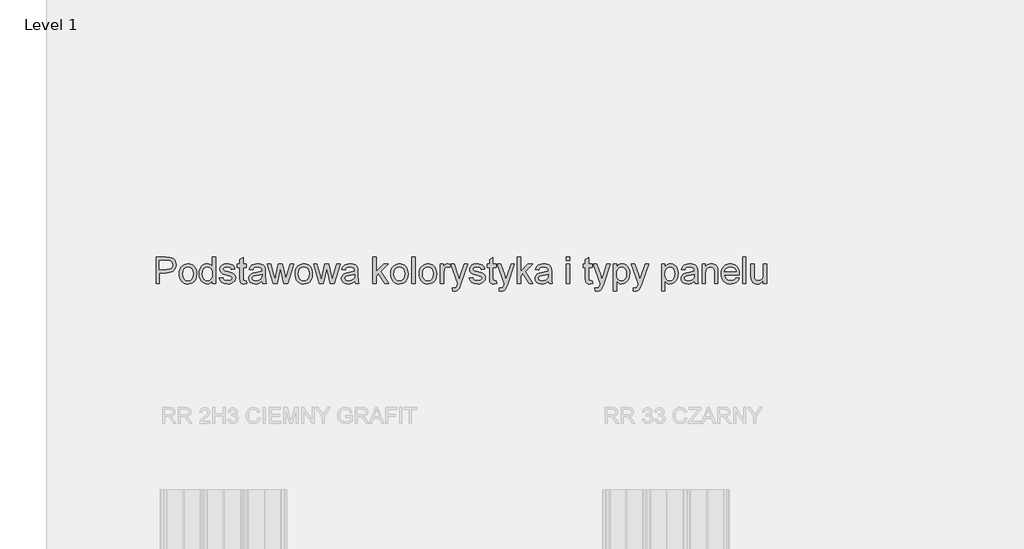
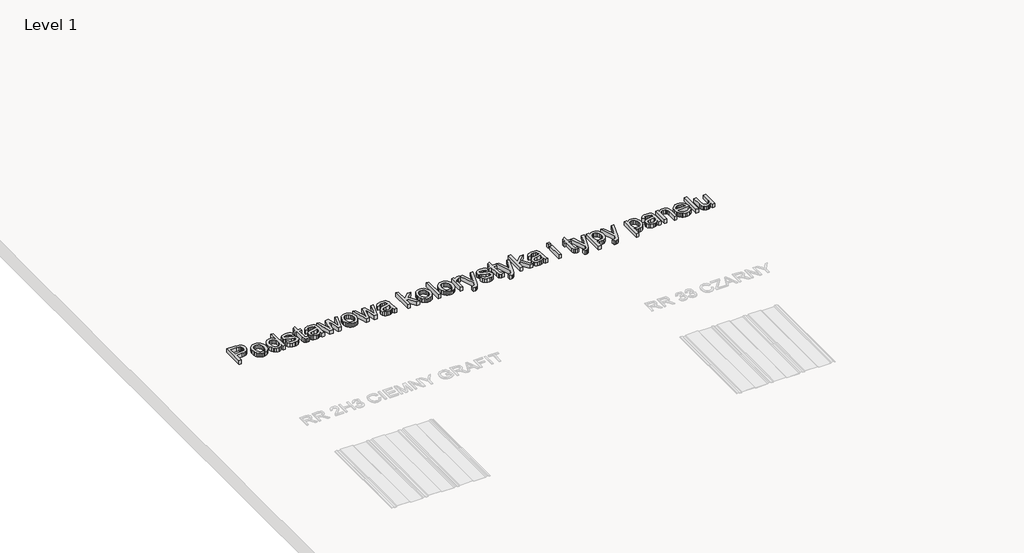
# One storey, part 8 of 9: 1 proxy.
"""IFC4 building model written with IfcOpenShell, lengths in millimetres."""

from ifc_helpers import new_model, si_unit, frame, origin, place, context, project, spatial, polyline, outline, extrude, element, save

model = new_model("IFC4")

# Units and contexts
model_context = context("Model", 3, world=origin())
ifc_project = project(units=[si_unit("LENGTHUNIT", "METRE", prefix="MILLI")], contexts=[model_context])

# Site, building, storey
site = spatial("IfcSite", under=ifc_project)
building = spatial("IfcBuilding", under=site)
storey = spatial("IfcBuildingStorey", under=building, Name="Level 1", Elevation=0.0)

# Proxy
placement = place(None, origin())
element("IfcBuildingElementProxy", 1, Name="250", ObjectType="250", at=placement, inside=storey, context=model_context, shape_type="SweptSolid", body=[
    extrude(outline(polyline([(-8797.1954693, 2793.1104745), (-8797.1954693, 3044.2512499), (-8704.1213245, 3044.2512499), (-8666.597361, 3041.8600169), (-8649.8663944, 3037.3917835), (-8636.0938123, 3030.1184499), (-8625.0037029, 3019.7104551), (-8616.320155, 3005.8382382), (-8610.7099546, 2989.4751536), (-8608.8398878, 2971.5945558), (-8613.890601, 2941.9953836), (-8629.0427407, 2917.3319616), (-8641.1770984, 2907.6214097), (-8657.3773185, 2900.6853013), (-8677.6434011, 2896.5236362), (-8701.9753462, 2895.1364145), (-8765.8028724, 2895.1364145), (-8765.8028724, 2793.1104745), (-8797.1954693, 2793.1104745)]), holes=[polyline([(-8765.8028724, 2926.5290114), (-8700.1359362, 2926.5290114), (-8672.2995319, 2929.4107537), (-8653.9054322, 2938.0559806), (-8643.6507216, 2951.9281975), (-8640.2324847, 2970.4909099), (-8642.2481715, 2984.593053), (-8648.2952318, 2996.4879042), (-8657.6225732, 3005.4396994), (-8669.4791033, 3010.7126747), (-8700.8717002, 3012.858653), (-8765.8028724, 3012.858653), (-8765.8028724, 2926.5290114)])]), frame((0.0, 0.0, 600.0), z_axis=(0.0, 0.0, 1.0), x_axis=(1.0, 0.0, 0.0)), (0.0, 0.0, 1.0), 50.0),
    extrude(outline(polyline([(-8577.4472909, 2885.326228), (-8575.7496687, 2909.2117329), (-8570.6568024, 2929.7939641), (-8562.1686917, 2947.0729216), (-8550.2853369, 2961.0486053), (-8525.116077, 2976.3616934), (-8494.9804103, 2981.466056), (-8477.6612157, 2979.9121378), (-8462.0013222, 2975.2503832), (-8448.0007299, 2967.4807921), (-8435.6594385, 2956.6033645), (-8425.5867529, 2942.9859826), (-8418.3919774, 2926.9965281), (-8414.0751121, 2908.6350013), (-8412.636157, 2887.9014019), (-8415.1806741, 2856.1869083), (-8422.8142255, 2832.0446523), (-8435.3145492, 2813.9647851), (-8452.459383, 2800.4374576), (-8472.8231843, 2791.9991643), (-8494.9804103, 2789.1863999), (-8512.5525237, 2790.73457), (-8528.3580371, 2795.3790802), (-8542.3969506, 2803.1199305), (-8554.669264, 2813.9571209), (-8564.6346507, 2827.7067105), (-8571.7527841, 2844.1847582), (-8576.0236642, 2863.391264), (-8577.4472909, 2885.326228)]), holes=[polyline([(-8546.0546939, 2885.3875416), (-8542.4218592, 2856.9763217), (-8531.5233551, 2836.7351478), (-8515.1219495, 2824.6180346), (-8494.9804103, 2820.5789968), (-8474.9308415, 2824.6410272), (-8458.5600927, 2836.8271183), (-8447.6615886, 2857.3365395), (-8444.0287539, 2886.3685603), (-8447.6845813, 2913.9520457), (-8458.6520632, 2933.9173082), (-8475.0458047, 2946.0344214), (-8494.9804103, 2950.0734591), (-8515.1219495, 2946.0497498), (-8531.5233551, 2933.9786218), (-8542.4218592, 2913.7834331), (-8546.0546939, 2885.3875416)])]), frame((0.0, 0.0, 600.0), z_axis=(0.0, 0.0, 1.0), x_axis=(1.0, 0.0, 0.0)), (0.0, 0.0, 1.0), 50.0),
    extrude(outline(polyline([(-8263.5213216, 2793.1104745), (-8263.5213216, 2822.7249751), (-8272.9138088, 2808.0518485), (-8284.2913259, 2797.5710437), (-8297.653873, 2791.2825609), (-8313.00145, 2789.1863999), (-8333.2962734, 2792.2214264), (-8351.8743141, 2801.3265057), (-8367.6012694, 2815.8655088), (-8379.3428365, 2835.2023061), (-8386.6544911, 2858.5551486), (-8389.0917093, 2885.142287), (-8386.8460963, 2911.3998644), (-8380.1092573, 2935.1129247), (-8368.8888564, 2954.9325671), (-8353.192558, 2969.5098912), (-8334.2083142, 2978.4770148), (-8313.1240773, 2981.466056), (-8297.765004, 2979.3277419), (-8284.184027, 2972.9127997), (-8272.6723863, 2963.0796205), (-8263.5213216, 2950.6865958), (-8263.5213216, 3044.2512499), (-8232.1287247, 3044.2512499), (-8232.1287247, 2793.1104745), (-8263.5213216, 2793.1104745)]), holes=[polyline([(-8357.6991124, 2885.2649143), (-8354.1582482, 2856.8690228), (-8343.5356556, 2836.6738341), (-8328.0999402, 2824.6027061), (-8310.1197077, 2820.5789968), (-8292.1471394, 2824.4187651), (-8277.1022986, 2835.9380701), (-8266.9165659, 2855.3515096), (-8263.5213216, 2882.8736813), (-8266.9778795, 2912.9633629), (-8277.3475533, 2933.8253377), (-8292.7756045, 2946.0114288), (-8311.4072947, 2950.0734591), (-8329.5714682, 2946.1723771), (-8344.4553606, 2934.4691312), (-8354.3881744, 2914.365913), (-8357.6991124, 2885.2649143)])]), frame((0.0, 0.0, 600.0), z_axis=(0.0, 0.0, 1.0), x_axis=(1.0, 0.0, 0.0)), (0.0, 0.0, 1.0), 50.0),
    extrude(outline(polyline([(-8196.8120532, 2848.0475191), (-8165.4194563, 2851.9715937), (-8160.4683777, 2838.5439009), (-8150.8881174, 2828.6724007), (-8136.6173617, 2822.6023478), (-8117.5947969, 2820.5789968), (-8098.8021583, 2822.4337352), (-8085.5890633, 2827.9979504), (-8077.7715709, 2836.0606975), (-8075.1657401, 2845.4110315), (-8077.7868993, 2853.4124649), (-8085.650377, 2859.5131746), (-8117.9626789, 2868.4649699), (-8165.2355153, 2883.8240432), (-8177.1993443, 2891.5419009), (-8185.8675638, 2901.7582904), (-8191.1328749, 2913.8217542), (-8192.8879786, 2927.0808344), (-8187.2471213, 2950.471998), (-8171.8573912, 2968.3449316), (-8151.8997929, 2977.6339519), (-8124.8911231, 2981.466056), (-8104.458344, 2979.9255502), (-8086.6927093, 2975.3040326), (-8072.4066251, 2968.0536916), (-8062.4124976, 2958.6267155), (-8055.7906217, 2946.3256613), (-8051.6212924, 2930.453086), (-8083.0138893, 2926.5290114), (-8086.976285, 2936.4081758), (-8094.81677, 2943.850122), (-8106.6119865, 2948.5176249), (-8122.4385765, 2950.0734591), (-8140.4647942, 2948.5866027), (-8152.4822728, 2944.1260335), (-8159.2421044, 2937.6880986), (-8161.4953816, 2930.2691451), (-8157.755248, 2921.1334088), (-8146.0443378, 2914.2049646), (-8119.0050112, 2907.521775), (-8072.9277913, 2892.7451815), (-8060.7570286, 2885.6787816), (-8051.5293219, 2876.0065508), (-8045.7121879, 2863.6978323), (-8043.7731432, 2848.7219695), (-8046.049413, 2833.2402688), (-8052.8782226, 2818.6782732), (-8063.9989887, 2806.1779496), (-8079.1511284, 2796.881265), (-8097.4532576, 2791.1101162), (-8118.0239925, 2789.1863999), (-8149.6771725, 2792.8958767), (-8172.7770962, 2804.024307), (-8188.1974831, 2822.4490636), (-8196.8120532, 2848.0475191)])), frame((0.0, 0.0, 600.0), z_axis=(0.0, 0.0, 1.0), x_axis=(1.0, 0.0, 0.0)), (0.0, 0.0, 1.0), 50.0),
    extrude(outline(polyline([(-7941.7472032, 2819.2914098), (-7937.8231286, 2792.1907695), (-7961.3062626, 2789.1863999), (-7976.374096, 2790.4893153), (-7987.6098253, 2794.3980615), (-8000.7309497, 2808.071009), (-8004.532397, 2843.6942489), (-8004.532397, 2946.1493845), (-8028.0768447, 2946.1493845), (-8028.0768447, 2977.5419814), (-8004.532397, 2977.5419814), (-8004.532397, 3022.3622712), (-7973.1398001, 3040.8176846), (-7973.1398001, 2977.5419814), (-7941.7472032, 2977.5419814), (-7941.7472032, 2946.1493845), (-7973.1398001, 2946.1493845), (-7973.1398001, 2844.6139538), (-7971.4843311, 2828.4271461), (-7966.1193854, 2822.6943183), (-7955.4201507, 2820.5789968), (-7941.7472032, 2819.2914098)])), frame((0.0, 0.0, 600.0), z_axis=(0.0, 0.0, 1.0), x_axis=(1.0, 0.0, 0.0)), (0.0, 0.0, 1.0), 50.0),
    extrude(outline(polyline([(-7792.6323678, 2816.6549222), (-7807.6312233, 2803.7943808), (-7823.0746029, 2795.3790802), (-7839.3150602, 2790.73457), (-7856.7051486, 2789.1863999), (-7882.9397334, 2792.9112051), (-7902.2918592, 2804.0856207), (-7914.2250314, 2821.0541777), (-7918.2027555, 2842.1614072), (-7916.7005707, 2855.1752328), (-7912.1940162, 2866.9934419), (-7896.4057473, 2885.0196596), (-7874.4247981, 2895.3203555), (-7847.2628441, 2900.0415078), (-7792.8163088, 2910.832713), (-7792.6323678, 2917.8224709), (-7794.7936745, 2931.8326435), (-7801.2775947, 2940.9990366), (-7815.7782767, 2947.8048535), (-7835.9811296, 2950.0734591), (-7854.6817977, 2948.5636101), (-7867.7416085, 2944.034063), (-7876.6474185, 2935.6570834), (-7882.886084, 2922.6049368), (-7914.2786809, 2926.5290114), (-7908.8294288, 2943.6968379), (-7900.6977039, 2957.1858444), (-7889.1247495, 2967.5018686), (-7873.3518089, 2975.1507485), (-7854.0609968, 2979.8872292), (-7831.9344276, 2981.466056), (-7810.712235, 2980.0711701), (-7793.889298, 2975.8865125), (-7781.2050333, 2969.5941975), (-7772.3988581, 2961.8763398), (-7762.7726125, 2940.5698409), (-7761.2397709, 2913.1013186), (-7761.2397709, 2874.0445135), (-7759.6456156, 2819.5060077), (-7753.3916217, 2793.1104745), (-7784.7842186, 2793.1104745), (-7792.6323678, 2816.6549222)]), holes=[polyline([(-7792.6323678, 2879.4401161), (-7843.2774558, 2869.8138705), (-7870.2861256, 2864.7248362), (-7882.518202, 2856.4474914), (-7886.8101586, 2844.3686992), (-7884.4725751, 2835.0336935), (-7877.4598245, 2827.3848137), (-7865.9251911, 2822.280451), (-7850.0219591, 2820.5789968), (-7833.1607009, 2822.4567278), (-7818.2614801, 2828.0899209), (-7806.182688, 2836.3902584), (-7797.7827157, 2846.2694228), (-7794.0579105, 2856.4474914), (-7792.8163088, 2870.5496345), (-7792.6323678, 2879.4401161)])]), frame((0.0, 0.0, 600.0), z_axis=(0.0, 0.0, 1.0), x_axis=(1.0, 0.0, 0.0)), (0.0, 0.0, 1.0), 50.0),
    extrude(outline(polyline([(-7687.2341762, 2793.1104745), (-7743.5814351, 2977.5419814), (-7711.0238785, 2977.5419814), (-7679.1407723, 2869.9364978), (-7669.6371541, 2831.4928293), (-7661.8503185, 2868.5262835), (-7636.5277745, 2977.5419814), (-7599.2490657, 2977.5419814), (-7573.9265217, 2868.8328519), (-7566.9980774, 2835.2942766), (-7557.0652636, 2870.6722618), (-7525.1821573, 2977.5419814), (-7492.4406597, 2977.5419814), (-7548.9718597, 2793.1104745), (-7586.8637052, 2793.1104745), (-7611.0212895, 2901.2677811), (-7618.0110474, 2934.9902973), (-7649.097076, 2793.1104745), (-7687.2341762, 2793.1104745)])), frame((0.0, 0.0, 600.0), z_axis=(0.0, 0.0, 1.0), x_axis=(1.0, 0.0, 0.0)), (0.0, 0.0, 1.0), 50.0),
    extrude(outline(polyline([(-7478.7063986, 2885.326228), (-7477.0087765, 2909.2117329), (-7471.9159101, 2929.7939641), (-7463.4277995, 2947.0729216), (-7451.5444446, 2961.0486053), (-7426.3751848, 2976.3616934), (-7396.239518, 2981.466056), (-7378.9203235, 2979.9121378), (-7363.26043, 2975.2503832), (-7349.2598376, 2967.4807921), (-7336.9185463, 2956.6033645), (-7326.8458606, 2942.9859826), (-7319.6510851, 2926.9965281), (-7315.3342198, 2908.6350013), (-7313.8952648, 2887.9014019), (-7316.4397819, 2856.1869083), (-7324.0733333, 2832.0446523), (-7336.5736569, 2813.9647851), (-7353.7184907, 2800.4374576), (-7374.082292, 2791.9991643), (-7396.239518, 2789.1863999), (-7413.8116314, 2790.73457), (-7429.6171449, 2795.3790802), (-7443.6560583, 2803.1199305), (-7455.9283717, 2813.9571209), (-7465.8937585, 2827.7067105), (-7473.0118919, 2844.1847582), (-7477.2827719, 2863.391264), (-7478.7063986, 2885.326228)]), holes=[polyline([(-7447.3138017, 2885.3875416), (-7443.680967, 2856.9763217), (-7432.7824629, 2836.7351478), (-7416.3810572, 2824.6180346), (-7396.239518, 2820.5789968), (-7376.1899493, 2824.6410272), (-7359.8192005, 2836.8271183), (-7348.9206964, 2857.3365395), (-7345.2878617, 2886.3685603), (-7348.943689, 2913.9520457), (-7359.911171, 2933.9173082), (-7376.3049124, 2946.0344214), (-7396.239518, 2950.0734591), (-7416.3810572, 2946.0497498), (-7432.7824629, 2933.9786218), (-7443.680967, 2913.7834331), (-7447.3138017, 2885.3875416)])]), frame((0.0, 0.0, 600.0), z_axis=(0.0, 0.0, 1.0), x_axis=(1.0, 0.0, 0.0)), (0.0, 0.0, 1.0), 50.0),
    extrude(outline(polyline([(-7247.7378193, 2793.1104745), (-7304.0850782, 2977.5419814), (-7271.5275216, 2977.5419814), (-7239.6444154, 2869.9364978), (-7230.1407972, 2831.4928293), (-7222.3539616, 2868.5262835), (-7197.0314176, 2977.5419814), (-7159.7527088, 2977.5419814), (-7134.4301648, 2868.8328519), (-7127.5017205, 2835.2942766), (-7117.5689067, 2870.6722618), (-7085.6858004, 2977.5419814), (-7052.9443028, 2977.5419814), (-7109.4755028, 2793.1104745), (-7147.3673483, 2793.1104745), (-7171.5249326, 2901.2677811), (-7178.5146905, 2934.9902973), (-7209.6007191, 2793.1104745), (-7247.7378193, 2793.1104745)])), frame((0.0, 0.0, 600.0), z_axis=(0.0, 0.0, 1.0), x_axis=(1.0, 0.0, 0.0)), (0.0, 0.0, 1.0), 50.0),
    extrude(outline(polyline([(-6913.639654, 2816.6549222), (-6928.6385095, 2803.7943808), (-6944.0818891, 2795.3790802), (-6960.3223463, 2790.73457), (-6977.7124348, 2789.1863999), (-7003.9470196, 2792.9112051), (-7023.2991454, 2804.0856207), (-7035.2323176, 2821.0541777), (-7039.2100417, 2842.1614072), (-7037.7078569, 2855.1752328), (-7033.2013024, 2866.9934419), (-7017.4130335, 2885.0196596), (-6995.4320843, 2895.3203555), (-6968.2701303, 2900.0415078), (-6913.823595, 2910.832713), (-6913.639654, 2917.8224709), (-6915.8009607, 2931.8326435), (-6922.2848809, 2940.9990366), (-6936.7855629, 2947.8048535), (-6956.9884158, 2950.0734591), (-6975.6890839, 2948.5636101), (-6988.7488947, 2944.034063), (-6997.6547046, 2935.6570834), (-7003.8933702, 2922.6049368), (-7035.2859671, 2926.5290114), (-7029.836715, 2943.6968379), (-7021.7049901, 2957.1858444), (-7010.1320357, 2967.5018686), (-6994.3590951, 2975.1507485), (-6975.068283, 2979.8872292), (-6952.9417138, 2981.466056), (-6931.7195212, 2980.0711701), (-6914.8965842, 2975.8865125), (-6902.2123195, 2969.5941975), (-6893.4061443, 2961.8763398), (-6883.7798987, 2940.5698409), (-6882.2470571, 2913.1013186), (-6882.2470571, 2874.0445135), (-6880.6529018, 2819.5060077), (-6874.3989078, 2793.1104745), (-6905.7915048, 2793.1104745), (-6913.639654, 2816.6549222)]), holes=[polyline([(-6913.639654, 2879.4401161), (-6964.284742, 2869.8138705), (-6991.2934118, 2864.7248362), (-7003.5254882, 2856.4474914), (-7007.8174448, 2844.3686992), (-7005.4798613, 2835.0336935), (-6998.4671107, 2827.3848137), (-6986.9324773, 2822.280451), (-6971.0292452, 2820.5789968), (-6954.1679871, 2822.4567278), (-6939.2687663, 2828.0899209), (-6927.1899742, 2836.3902584), (-6918.7900019, 2846.2694228), (-6915.0651967, 2856.4474914), (-6913.823595, 2870.5496345), (-6913.639654, 2879.4401161)])]), frame((0.0, 0.0, 600.0), z_axis=(0.0, 0.0, 1.0), x_axis=(1.0, 0.0, 0.0)), (0.0, 0.0, 1.0), 50.0),
    extrude(outline(polyline([(-6740.9803709, 2793.1104745), (-6740.9803709, 3044.2512499), (-6709.587774, 3044.2512499), (-6709.587774, 2909.2998713), (-6639.1996856, 2977.5419814), (-6595.7896102, 2977.5419814), (-6667.0974036, 2908.44148), (-6591.8655356, 2793.1104745), (-6628.5311077, 2793.1104745), (-6689.5995189, 2886.613815), (-6709.587774, 2867.1773829), (-6709.587774, 2793.1104745), (-6740.9803709, 2793.1104745)])), frame((0.0, 0.0, 600.0), z_axis=(0.0, 0.0, 1.0), x_axis=(1.0, 0.0, 0.0)), (0.0, 0.0, 1.0), 50.0),
    extrude(outline(polyline([(-6572.2451625, 2885.326228), (-6570.5475404, 2909.2117329), (-6565.454674, 2929.7939641), (-6556.9665634, 2947.0729216), (-6545.0832085, 2961.0486053), (-6519.9139487, 2976.3616934), (-6489.7782819, 2981.466056), (-6472.4590873, 2979.9121378), (-6456.7991939, 2975.2503832), (-6442.7986015, 2967.4807921), (-6430.4573102, 2956.6033645), (-6420.3846245, 2942.9859826), (-6413.189849, 2926.9965281), (-6408.8729837, 2908.6350013), (-6407.4340286, 2887.9014019), (-6409.9785458, 2856.1869083), (-6417.6120972, 2832.0446523), (-6430.1124208, 2813.9647851), (-6447.2572546, 2800.4374576), (-6467.6210559, 2791.9991643), (-6489.7782819, 2789.1863999), (-6507.3503953, 2790.73457), (-6523.1559087, 2795.3790802), (-6537.1948222, 2803.1199305), (-6549.4671356, 2813.9571209), (-6559.4325224, 2827.7067105), (-6566.5506558, 2844.1847582), (-6570.8215358, 2863.391264), (-6572.2451625, 2885.326228)]), holes=[polyline([(-6540.8525656, 2885.3875416), (-6537.2197309, 2856.9763217), (-6526.3212267, 2836.7351478), (-6509.9198211, 2824.6180346), (-6489.7782819, 2820.5789968), (-6469.7287132, 2824.6410272), (-6453.3579644, 2836.8271183), (-6442.4594603, 2857.3365395), (-6438.8266256, 2886.3685603), (-6442.4824529, 2913.9520457), (-6453.4499349, 2933.9173082), (-6469.8436763, 2946.0344214), (-6489.7782819, 2950.0734591), (-6509.9198211, 2946.0497498), (-6526.3212267, 2933.9786218), (-6537.2197309, 2913.7834331), (-6540.8525656, 2885.3875416)])]), frame((0.0, 0.0, 600.0), z_axis=(0.0, 0.0, 1.0), x_axis=(1.0, 0.0, 0.0)), (0.0, 0.0, 1.0), 50.0),
    extrude(outline(polyline([(-6372.1173571, 2793.1104745), (-6372.1173571, 3044.2512499), (-6340.7247602, 3044.2512499), (-6340.7247602, 2793.1104745), (-6372.1173571, 2793.1104745)])), frame((0.0, 0.0, 600.0), z_axis=(0.0, 0.0, 1.0), x_axis=(1.0, 0.0, 0.0)), (0.0, 0.0, 1.0), 50.0),
    extrude(outline(polyline([(-6301.484014, 2885.326228), (-6299.7863919, 2909.2117329), (-6294.6935255, 2929.7939641), (-6286.2054149, 2947.0729216), (-6274.32206, 2961.0486053), (-6249.1528002, 2976.3616934), (-6219.0171334, 2981.466056), (-6201.6979389, 2979.9121378), (-6186.0380454, 2975.2503832), (-6172.037453, 2967.4807921), (-6159.6961617, 2956.6033645), (-6149.623476, 2942.9859826), (-6142.4287006, 2926.9965281), (-6138.1118353, 2908.6350013), (-6136.6728802, 2887.9014019), (-6139.2173973, 2856.1869083), (-6146.8509487, 2832.0446523), (-6159.3512723, 2813.9647851), (-6176.4961062, 2800.4374576), (-6196.8599074, 2791.9991643), (-6219.0171334, 2789.1863999), (-6236.5892469, 2790.73457), (-6252.3947603, 2795.3790802), (-6266.4336737, 2803.1199305), (-6278.7059872, 2813.9571209), (-6288.6713739, 2827.7067105), (-6295.7895073, 2844.1847582), (-6300.0603873, 2863.391264), (-6301.484014, 2885.326228)]), holes=[polyline([(-6270.0914171, 2885.3875416), (-6266.4585824, 2856.9763217), (-6255.5600783, 2836.7351478), (-6239.1586727, 2824.6180346), (-6219.0171334, 2820.5789968), (-6198.9675647, 2824.6410272), (-6182.5968159, 2836.8271183), (-6171.6983118, 2857.3365395), (-6168.0654771, 2886.3685603), (-6171.7213044, 2913.9520457), (-6182.6887864, 2933.9173082), (-6199.0825278, 2946.0344214), (-6219.0171334, 2950.0734591), (-6239.1586727, 2946.0497498), (-6255.5600783, 2933.9786218), (-6266.4585824, 2913.7834331), (-6270.0914171, 2885.3875416)])]), frame((0.0, 0.0, 600.0), z_axis=(0.0, 0.0, 1.0), x_axis=(1.0, 0.0, 0.0)), (0.0, 0.0, 1.0), 50.0),
    extrude(outline(polyline([(-6101.3562087, 2793.1104745), (-6101.3562087, 2977.5419814), (-6073.8876863, 2977.5419814), (-6073.8876863, 2950.2574001), (-6063.7402746, 2966.0763259), (-6054.3899406, 2975.3960031), (-6034.7695675, 2981.466056), (-6019.1345827, 2979.0441662), (-6003.2543433, 2971.7784968), (-6013.7389801, 2943.6355242), (-6035.8118998, 2950.0734591), (-6045.1852265, 2948.5252891), (-6053.5622061, 2943.8807789), (-6064.8745775, 2926.7129524), (-6069.9636117, 2890.0473802), (-6069.9636117, 2793.1104745), (-6101.3562087, 2793.1104745)])), frame((0.0, 0.0, 600.0), z_axis=(0.0, 0.0, 1.0), x_axis=(1.0, 0.0, 0.0)), (0.0, 0.0, 1.0), 50.0),
    extrude(outline(polyline([(-5983.6339702, 2722.4771314), (-5987.5580448, 2752.7047687), (-5971.6164917, 2749.9456537), (-5956.7172709, 2753.4098759), (-5947.5815347, 2763.0667782), (-5938.9976214, 2786.1820303), (-5936.5450748, 2793.7849248), (-6003.2543433, 2977.5419814), (-5970.2062774, 2977.5419814), (-5934.7669785, 2875.0868458), (-5922.4429317, 2834.129317), (-5910.1188848, 2870.3656935), (-5873.759881, 2977.5419814), (-5840.9570697, 2977.5419814), (-5905.1524779, 2788.6958906), (-5921.829795, 2747.7383618), (-5930.367723, 2734.6632225), (-5940.0399538, 2725.6041284), (-5951.2603546, 2720.3158247), (-5964.4427928, 2718.5530568), (-5983.6339702, 2722.4771314)])), frame((0.0, 0.0, 600.0), z_axis=(0.0, 0.0, 1.0), x_axis=(1.0, 0.0, 0.0)), (0.0, 0.0, 1.0), 50.0),
    extrude(outline(polyline([(-5826.6709856, 2848.0475191), (-5795.2783887, 2851.9715937), (-5790.3273101, 2838.5439009), (-5780.7470499, 2828.6724007), (-5766.4762941, 2822.6023478), (-5747.4537293, 2820.5789968), (-5728.6610907, 2822.4337352), (-5715.4479957, 2827.9979504), (-5707.6305033, 2836.0606975), (-5705.0246725, 2845.4110315), (-5707.6458317, 2853.4124649), (-5715.5093094, 2859.5131746), (-5747.8216113, 2868.4649699), (-5795.0944477, 2883.8240432), (-5807.0582767, 2891.5419009), (-5815.7264962, 2901.7582904), (-5820.9918073, 2913.8217542), (-5822.746911, 2927.0808344), (-5817.1060537, 2950.471998), (-5801.7163236, 2968.3449316), (-5781.7587253, 2977.6339519), (-5754.7500555, 2981.466056), (-5734.3172764, 2979.9255502), (-5716.5516417, 2975.3040326), (-5702.2655575, 2968.0536916), (-5692.27143, 2958.6267155), (-5685.6495541, 2946.3256613), (-5681.4802248, 2930.453086), (-5712.8728217, 2926.5290114), (-5716.8352174, 2936.4081758), (-5724.6757024, 2943.850122), (-5736.4709189, 2948.5176249), (-5752.2975089, 2950.0734591), (-5770.3237267, 2948.5866027), (-5782.3412052, 2944.1260335), (-5789.1010368, 2937.6880986), (-5791.354314, 2930.2691451), (-5787.6141804, 2921.1334088), (-5775.9032703, 2914.2049646), (-5748.8639436, 2907.521775), (-5702.7867237, 2892.7451815), (-5690.615961, 2885.6787816), (-5681.3882543, 2876.0065508), (-5675.5711203, 2863.6978323), (-5673.6320756, 2848.7219695), (-5675.9083454, 2833.2402688), (-5682.737155, 2818.6782732), (-5693.8579211, 2806.1779496), (-5709.0100608, 2796.881265), (-5727.3121901, 2791.1101162), (-5747.882925, 2789.1863999), (-5779.536105, 2792.8958767), (-5802.6360286, 2804.024307), (-5818.0564155, 2822.4490636), (-5826.6709856, 2848.0475191)])), frame((0.0, 0.0, 600.0), z_axis=(0.0, 0.0, 1.0), x_axis=(1.0, 0.0, 0.0)), (0.0, 0.0, 1.0), 50.0),
    extrude(outline(polyline([(-5571.6061356, 2819.2914098), (-5567.682061, 2792.1907695), (-5591.165195, 2789.1863999), (-5606.2330284, 2790.4893153), (-5617.4687577, 2794.3980615), (-5630.5898822, 2808.071009), (-5634.3913294, 2843.6942489), (-5634.3913294, 2946.1493845), (-5657.9357771, 2946.1493845), (-5657.9357771, 2977.5419814), (-5634.3913294, 2977.5419814), (-5634.3913294, 3022.3622712), (-5602.9987325, 3040.8176846), (-5602.9987325, 2977.5419814), (-5571.6061356, 2977.5419814), (-5571.6061356, 2946.1493845), (-5602.9987325, 2946.1493845), (-5602.9987325, 2844.6139538), (-5601.3432635, 2828.4271461), (-5595.9783178, 2822.6943183), (-5585.2790831, 2820.5789968), (-5571.6061356, 2819.2914098)])), frame((0.0, 0.0, 600.0), z_axis=(0.0, 0.0, 1.0), x_axis=(1.0, 0.0, 0.0)), (0.0, 0.0, 1.0), 50.0),
    extrude(outline(polyline([(-5540.2135387, 2722.4771314), (-5544.1376133, 2752.7047687), (-5528.1960602, 2749.9456537), (-5513.2968394, 2753.4098759), (-5504.1611031, 2763.0667782), (-5495.5771899, 2786.1820303), (-5493.1246433, 2793.7849248), (-5559.8339118, 2977.5419814), (-5526.7858459, 2977.5419814), (-5491.346547, 2875.0868458), (-5479.0225001, 2834.129317), (-5466.6984533, 2870.3656935), (-5430.3394494, 2977.5419814), (-5397.5366382, 2977.5419814), (-5461.7320464, 2788.6958906), (-5478.4093635, 2747.7383618), (-5486.9472915, 2734.6632225), (-5496.6195222, 2725.6041284), (-5507.8399231, 2720.3158247), (-5521.0223613, 2718.5530568), (-5540.2135387, 2722.4771314)])), frame((0.0, 0.0, 600.0), z_axis=(0.0, 0.0, 1.0), x_axis=(1.0, 0.0, 0.0)), (0.0, 0.0, 1.0), 50.0),
    extrude(outline(polyline([(-5371.4783302, 2793.1104745), (-5371.4783302, 3044.2512499), (-5340.0857333, 3044.2512499), (-5340.0857333, 2909.2998713), (-5269.6976449, 2977.5419814), (-5226.2875695, 2977.5419814), (-5297.5953629, 2908.44148), (-5222.3634948, 2793.1104745), (-5259.029067, 2793.1104745), (-5320.0974782, 2886.613815), (-5340.0857333, 2867.1773829), (-5340.0857333, 2793.1104745), (-5371.4783302, 2793.1104745)])), frame((0.0, 0.0, 600.0), z_axis=(0.0, 0.0, 1.0), x_axis=(1.0, 0.0, 0.0)), (0.0, 0.0, 1.0), 50.0),
    extrude(outline(polyline([(-5077.1727341, 2816.6549222), (-5092.1715896, 2803.7943808), (-5107.6149692, 2795.3790802), (-5123.8554264, 2790.73457), (-5141.2455149, 2789.1863999), (-5167.4800997, 2792.9112051), (-5186.8322255, 2804.0856207), (-5198.7653977, 2821.0541777), (-5202.7431218, 2842.1614072), (-5201.240937, 2855.1752328), (-5196.7343825, 2866.9934419), (-5180.9461136, 2885.0196596), (-5158.9651643, 2895.3203555), (-5131.8032104, 2900.0415078), (-5077.3566751, 2910.832713), (-5077.1727341, 2917.8224709), (-5079.3340408, 2931.8326435), (-5085.817961, 2940.9990366), (-5100.3186429, 2947.8048535), (-5120.5214958, 2950.0734591), (-5139.2221639, 2948.5636101), (-5152.2819748, 2944.034063), (-5161.1877847, 2935.6570834), (-5167.4264502, 2922.6049368), (-5198.8190472, 2926.5290114), (-5193.3697951, 2943.6968379), (-5185.2380702, 2957.1858444), (-5173.6651157, 2967.5018686), (-5157.8921752, 2975.1507485), (-5138.6013631, 2979.8872292), (-5116.4747939, 2981.466056), (-5095.2526013, 2980.0711701), (-5078.4296642, 2975.8865125), (-5065.7453996, 2969.5941975), (-5056.9392243, 2961.8763398), (-5047.3129788, 2940.5698409), (-5045.7801372, 2913.1013186), (-5045.7801372, 2874.0445135), (-5044.1859818, 2819.5060077), (-5037.9319879, 2793.1104745), (-5069.3245848, 2793.1104745), (-5077.1727341, 2816.6549222)]), holes=[polyline([(-5077.1727341, 2879.4401161), (-5127.8178221, 2869.8138705), (-5154.8264919, 2864.7248362), (-5167.0585682, 2856.4474914), (-5171.3505248, 2844.3686992), (-5169.0129413, 2835.0336935), (-5162.0001908, 2827.3848137), (-5150.4655574, 2822.280451), (-5134.5623253, 2820.5789968), (-5117.7010672, 2822.4567278), (-5102.8018464, 2828.0899209), (-5090.7230542, 2836.3902584), (-5082.323082, 2846.2694228), (-5078.5982768, 2856.4474914), (-5077.3566751, 2870.5496345), (-5077.1727341, 2879.4401161)])]), frame((0.0, 0.0, 600.0), z_axis=(0.0, 0.0, 1.0), x_axis=(1.0, 0.0, 0.0)), (0.0, 0.0, 1.0), 50.0),
    extrude(outline(polyline([(-4904.513451, 3012.858653), (-4904.513451, 3044.2512499), (-4873.1208541, 3044.2512499), (-4873.1208541, 3012.858653), (-4904.513451, 3012.858653)])), frame((0.0, 0.0, 600.0), z_axis=(0.0, 0.0, 1.0), x_axis=(1.0, 0.0, 0.0)), (0.0, 0.0, 1.0), 50.0),
    extrude(outline(polyline([(-4904.513451, 2793.1104745), (-4904.513451, 2977.5419814), (-4873.1208541, 2977.5419814), (-4873.1208541, 2793.1104745), (-4904.513451, 2793.1104745)])), frame((0.0, 0.0, 600.0), z_axis=(0.0, 0.0, 1.0), x_axis=(1.0, 0.0, 0.0)), (0.0, 0.0, 1.0), 50.0),
    extrude(outline(polyline([(-4661.2208249, 2819.2914098), (-4657.2967502, 2792.1907695), (-4680.7798843, 2789.1863999), (-4695.8477177, 2790.4893153), (-4707.0834469, 2794.3980615), (-4720.2045714, 2808.071009), (-4724.0060187, 2843.6942489), (-4724.0060187, 2946.1493845), (-4747.5504664, 2946.1493845), (-4747.5504664, 2977.5419814), (-4724.0060187, 2977.5419814), (-4724.0060187, 3022.3622712), (-4692.6134218, 3040.8176846), (-4692.6134218, 2977.5419814), (-4661.2208249, 2977.5419814), (-4661.2208249, 2946.1493845), (-4692.6134218, 2946.1493845), (-4692.6134218, 2844.6139538), (-4690.9579528, 2828.4271461), (-4685.593007, 2822.6943183), (-4674.8937724, 2820.5789968), (-4661.2208249, 2819.2914098)])), frame((0.0, 0.0, 600.0), z_axis=(0.0, 0.0, 1.0), x_axis=(1.0, 0.0, 0.0)), (0.0, 0.0, 1.0), 50.0),
    extrude(outline(polyline([(-4629.8282279, 2722.4771314), (-4633.7523026, 2752.7047687), (-4617.8107494, 2749.9456537), (-4602.9115286, 2753.4098759), (-4593.7757924, 2763.0667782), (-4585.1918792, 2786.1820303), (-4582.7393326, 2793.7849248), (-4649.448601, 2977.5419814), (-4616.4005351, 2977.5419814), (-4580.9612363, 2875.0868458), (-4568.6371894, 2834.129317), (-4556.3131426, 2870.3656935), (-4519.9541387, 2977.5419814), (-4487.1513275, 2977.5419814), (-4551.3467356, 2788.6958906), (-4568.0240528, 2747.7383618), (-4576.5619807, 2734.6632225), (-4586.2342115, 2725.6041284), (-4597.4546124, 2720.3158247), (-4610.6370505, 2718.5530568), (-4629.8282279, 2722.4771314)])), frame((0.0, 0.0, 600.0), z_axis=(0.0, 0.0, 1.0), x_axis=(1.0, 0.0, 0.0)), (0.0, 0.0, 1.0), 50.0),
    extrude(outline(polyline([(-4461.0930195, 2722.4771314), (-4461.0930195, 2977.5419814), (-4429.7004226, 2977.5419814), (-4429.7004226, 2946.7625212), (-4419.4610404, 2961.9453177), (-4407.9953849, 2972.7901723), (-4394.6290057, 2979.2970851), (-4378.6874526, 2981.466056), (-4357.4575958, 2978.4310296), (-4338.8948834, 2969.3259502), (-4323.7810648, 2954.7026409), (-4312.8978891, 2935.1129247), (-4306.3219984, 2911.9823442), (-4304.1300349, 2886.7364423), (-4306.6055741, 2859.8887208), (-4314.0321919, 2835.8767565), (-4326.1722978, 2815.9191582), (-4342.7883012, 2801.2345352), (-4362.140427, 2792.1984337), (-4382.4888999, 2789.1863999), (-4396.920604, 2791.2020867), (-4409.804138, 2797.249147), (-4429.7004226, 2817.6359409), (-4429.7004226, 2722.4771314), (-4461.0930195, 2722.4771314)]), holes=[polyline([(-4429.7004226, 2883.8547), (-4426.3051783, 2855.7117274), (-4416.1194456, 2836.0300406), (-4401.0899332, 2824.4417578), (-4383.1633502, 2820.5789968), (-4364.9455272, 2824.5797135), (-4349.5328045, 2836.5818636), (-4339.025175, 2856.9839859), (-4335.5226318, 2886.1846193), (-4338.9408687, 2914.1743078), (-4349.1955793, 2934.131906), (-4364.202099, 2946.0880708), (-4381.8757632, 2950.0734591), (-4399.6184053, 2945.835152), (-4415.1997406, 2933.1202305), (-4426.0752521, 2912.3272336), (-4429.7004226, 2883.8547)])]), frame((0.0, 0.0, 600.0), z_axis=(0.0, 0.0, 1.0), x_axis=(1.0, 0.0, 0.0)), (0.0, 0.0, 1.0), 50.0),
    extrude(outline(polyline([(-4268.8133633, 2722.4771314), (-4272.737438, 2752.7047687), (-4256.7958848, 2749.9456537), (-4241.896664, 2753.4098759), (-4232.7609278, 2763.0667782), (-4224.1770146, 2786.1820303), (-4221.724468, 2793.7849248), (-4288.4337364, 2977.5419814), (-4255.3856705, 2977.5419814), (-4219.9463717, 2875.0868458), (-4207.6223248, 2834.129317), (-4195.298278, 2870.3656935), (-4158.9392741, 2977.5419814), (-4126.1364629, 2977.5419814), (-4190.331871, 2788.6958906), (-4207.0091882, 2747.7383618), (-4215.5471161, 2734.6632225), (-4225.2193469, 2725.6041284), (-4236.4397478, 2720.3158247), (-4249.6221859, 2718.5530568), (-4268.8133633, 2722.4771314)])), frame((0.0, 0.0, 600.0), z_axis=(0.0, 0.0, 1.0), x_axis=(1.0, 0.0, 0.0)), (0.0, 0.0, 1.0), 50.0),
    extrude(outline(polyline([(-4001.9762895, 2722.4771314), (-4001.9762895, 2977.5419814), (-3970.5836926, 2977.5419814), (-3970.5836926, 2946.7625212), (-3960.3443104, 2961.9453177), (-3948.8786549, 2972.7901723), (-3935.5122757, 2979.2970851), (-3919.5707226, 2981.466056), (-3898.3408658, 2978.4310296), (-3879.7781534, 2969.3259502), (-3864.6643348, 2954.7026409), (-3853.7811591, 2935.1129247), (-3847.2052685, 2911.9823442), (-3845.0133049, 2886.7364423), (-3847.4888442, 2859.8887208), (-3854.9154619, 2835.8767565), (-3867.0555678, 2815.9191582), (-3883.6715712, 2801.2345352), (-3903.023697, 2792.1984337), (-3923.3721699, 2789.1863999), (-3937.803874, 2791.2020867), (-3950.687408, 2797.249147), (-3970.5836926, 2817.6359409), (-3970.5836926, 2722.4771314), (-4001.9762895, 2722.4771314)]), holes=[polyline([(-3970.5836926, 2883.8547), (-3967.1884483, 2855.7117274), (-3957.0027156, 2836.0300406), (-3941.9732033, 2824.4417578), (-3924.0466202, 2820.5789968), (-3905.8287972, 2824.5797135), (-3890.4160745, 2836.5818636), (-3879.908445, 2856.9839859), (-3876.4059018, 2886.1846193), (-3879.8241387, 2914.1743078), (-3890.0788493, 2934.131906), (-3905.085369, 2946.0880708), (-3922.7590332, 2950.0734591), (-3940.5016753, 2945.835152), (-3956.0830106, 2933.1202305), (-3966.9585221, 2912.3272336), (-3970.5836926, 2883.8547)])]), frame((0.0, 0.0, 600.0), z_axis=(0.0, 0.0, 1.0), x_axis=(1.0, 0.0, 0.0)), (0.0, 0.0, 1.0), 50.0),
    extrude(outline(polyline([(-3691.9743949, 2816.6549222), (-3706.9732504, 2803.7943808), (-3722.41663, 2795.3790802), (-3738.6570873, 2790.73457), (-3756.0471757, 2789.1863999), (-3782.2817605, 2792.9112051), (-3801.6338863, 2804.0856207), (-3813.5670585, 2821.0541777), (-3817.5447826, 2842.1614072), (-3816.0425978, 2855.1752328), (-3811.5360433, 2866.9934419), (-3795.7477744, 2885.0196596), (-3773.7668252, 2895.3203555), (-3746.6048712, 2900.0415078), (-3692.1583359, 2910.832713), (-3691.9743949, 2917.8224709), (-3694.1357016, 2931.8326435), (-3700.6196218, 2940.9990366), (-3715.1203038, 2947.8048535), (-3735.3231567, 2950.0734591), (-3754.0238248, 2948.5636101), (-3767.0836356, 2944.034063), (-3775.9894456, 2935.6570834), (-3782.2281111, 2922.6049368), (-3813.620708, 2926.5290114), (-3808.1714559, 2943.6968379), (-3800.039731, 2957.1858444), (-3788.4667766, 2967.5018686), (-3772.693836, 2975.1507485), (-3753.4030239, 2979.8872292), (-3731.2764547, 2981.466056), (-3710.0542621, 2980.0711701), (-3693.2313251, 2975.8865125), (-3680.5470604, 2969.5941975), (-3671.7408852, 2961.8763398), (-3662.1146396, 2940.5698409), (-3660.581798, 2913.1013186), (-3660.581798, 2874.0445135), (-3658.9876427, 2819.5060077), (-3652.7336488, 2793.1104745), (-3684.1262457, 2793.1104745), (-3691.9743949, 2816.6549222)]), holes=[polyline([(-3691.9743949, 2879.4401161), (-3742.6194829, 2869.8138705), (-3769.6281527, 2864.7248362), (-3781.8602291, 2856.4474914), (-3786.1521857, 2844.3686992), (-3783.8146022, 2835.0336935), (-3776.8018516, 2827.3848137), (-3765.2672182, 2822.280451), (-3749.3639862, 2820.5789968), (-3732.502728, 2822.4567278), (-3717.6035072, 2828.0899209), (-3705.5247151, 2836.3902584), (-3697.1247428, 2846.2694228), (-3693.3999376, 2856.4474914), (-3692.1583359, 2870.5496345), (-3691.9743949, 2879.4401161)])]), frame((0.0, 0.0, 600.0), z_axis=(0.0, 0.0, 1.0), x_axis=(1.0, 0.0, 0.0)), (0.0, 0.0, 1.0), 50.0),
    extrude(outline(polyline([(-3617.4169772, 2793.1104745), (-3617.4169772, 2977.5419814), (-3586.0243803, 2977.5419814), (-3586.0243803, 2951.7902418), (-3575.118212, 2964.7734105), (-3562.0200801, 2974.0471025), (-3546.7299847, 2979.6113177), (-3529.2479257, 2981.466056), (-3513.7738893, 2979.9715354), (-3499.6027683, 2975.4879736), (-3487.7845592, 2968.5748578), (-3479.3692585, 2959.7916752), (-3469.9576108, 2936.70708), (-3468.3021418, 2906.3568154), (-3468.3021418, 2793.1104745), (-3499.6947388, 2793.1104745), (-3499.6947388, 2902.1261724), (-3503.312245, 2929.9012631), (-3508.316973, 2938.1709437), (-3516.0961444, 2944.585886), (-3537.6478979, 2950.0734591), (-3556.0343335, 2946.9924474), (-3571.7076393, 2937.7494123), (-3582.4451951, 2919.8918071), (-3586.0243803, 2890.9670852), (-3586.0243803, 2793.1104745), (-3617.4169772, 2793.1104745)])), frame((0.0, 0.0, 600.0), z_axis=(0.0, 0.0, 1.0), x_axis=(1.0, 0.0, 0.0)), (0.0, 0.0, 1.0), 50.0),
    extrude(outline(polyline([(-3296.0107408, 2848.0475191), (-3265.2312805, 2844.1234445), (-3276.3213898, 2820.9315504), (-3294.0180466, 2803.5951114), (-3317.9227121, 2792.7885778), (-3347.6368474, 2789.1863999), (-3367.1154326, 2790.7403181), (-3384.4710322, 2795.4020728), (-3399.7036461, 2803.1716639), (-3412.8132742, 2814.0490914), (-3423.3553927, 2827.7316192), (-3430.8854772, 2843.9165109), (-3435.403528, 2862.6037666), (-3436.9095449, 2883.7933863), (-3435.3881996, 2905.7015256), (-3430.8241636, 2925.0114982), (-3423.2174369, 2941.7233043), (-3412.5680196, 2955.8369437), (-3399.4928803, 2967.0496804), (-3384.6089879, 2975.058778), (-3367.9163424, 2979.8642365), (-3349.4149437, 2981.466056), (-3331.5094372, 2979.8680686), (-3315.3168813, 2975.0741064), (-3300.8372759, 2967.0841693), (-3288.070621, 2955.8982574), (-3277.6492139, 2941.8152748), (-3270.2053516, 2925.1341255), (-3265.7390343, 2905.8548097), (-3264.2502618, 2883.9773273), (-3264.4342028, 2875.5160414), (-3405.516948, 2875.5160414), (-3400.0830244, 2852.017579), (-3387.4600734, 2834.7424536), (-3369.2422504, 2824.119861), (-3347.0237108, 2820.5789968), (-3330.3157368, 2822.2191374), (-3316.2442505, 2827.1395591), (-3304.8092518, 2835.6468302), (-3296.0107408, 2848.0475191)]), holes=[polyline([(-3405.516948, 2906.9086384), (-3295.6428588, 2906.9086384), (-3299.8888301, 2923.493985), (-3308.2121603, 2935.3581793), (-3326.5142895, 2946.3946392), (-3349.5375711, 2950.0734591), (-3370.69845, 2947.1380674), (-3388.1958374, 2938.3318921), (-3400.3589359, 2924.6052952), (-3405.516948, 2906.9086384)])]), frame((0.0, 0.0, 600.0), z_axis=(0.0, 0.0, 1.0), x_axis=(1.0, 0.0, 0.0)), (0.0, 0.0, 1.0), 50.0),
    extrude(outline(polyline([(-3232.8576649, 2793.1104745), (-3232.8576649, 3044.2512499), (-3201.465068, 3044.2512499), (-3201.465068, 2793.1104745), (-3232.8576649, 2793.1104745)])), frame((0.0, 0.0, 600.0), z_axis=(0.0, 0.0, 1.0), x_axis=(1.0, 0.0, 0.0)), (0.0, 0.0, 1.0), 50.0),
    extrude(outline(polyline([(-3036.6539342, 2793.1104745), (-3036.6539342, 2824.8096398), (-3048.0122908, 2809.2244723), (-3061.2407142, 2798.0922099), (-3076.3392044, 2791.4128524), (-3093.3077614, 2789.1863999), (-3108.5978568, 2790.7498984), (-3122.8302915, 2795.4403938), (-3134.771128, 2802.4914654), (-3143.1864286, 2811.1366923), (-3152.5367626, 2834.2519443), (-3154.3761726, 2863.4372493), (-3154.3761726, 2977.5419814), (-3122.9835757, 2977.5419814), (-3122.9835757, 2878.2138427), (-3121.0828521, 2846.2081092), (-3116.5073197, 2835.5318671), (-3108.6668347, 2827.4154706), (-3098.0825632, 2822.2881153), (-3085.2756712, 2820.5789968), (-3071.7330152, 2822.3264363), (-3059.064079, 2827.5687547), (-3048.6177632, 2835.823107), (-3041.7429684, 2846.606648), (-3037.9261927, 2861.3755772), (-3036.6539342, 2881.5860944), (-3036.6539342, 2977.5419814), (-3005.2613372, 2977.5419814), (-3005.2613372, 2793.1104745), (-3036.6539342, 2793.1104745)])), frame((0.0, 0.0, 600.0), z_axis=(0.0, 0.0, 1.0), x_axis=(1.0, 0.0, 0.0)), (0.0, 0.0, 1.0), 50.0),
])

save(model, "model.ifc")
